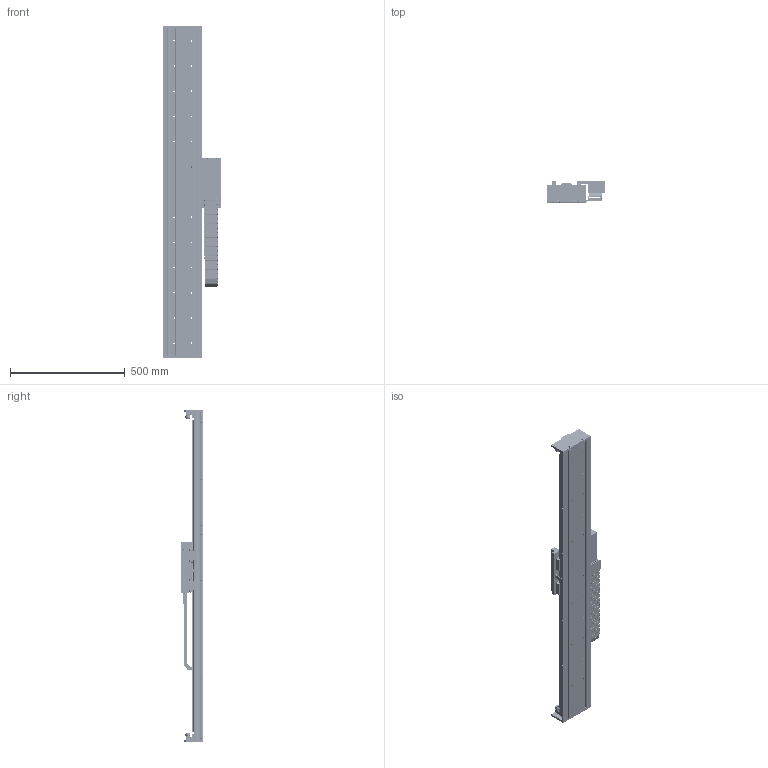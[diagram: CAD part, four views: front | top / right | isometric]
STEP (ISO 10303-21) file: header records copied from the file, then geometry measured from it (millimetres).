
FILE_DESCRIPTION (( 'STEP AP203' ), '1' );
FILE_NAME ('STF20120J-xC1B-Axx.STEP', '2007-06-22T21:30:41', ( 'Yaskawa' ), ( 'Yaskawa' ), 'SwSTEP 2.0', 'SolidWorks 2007', '' );
FILE_SCHEMA (( 'CONFIG_CONTROL_DESIGN' ));
Length unit declared in the file: millimetre
Products named in the file (58): STF2035-005-R2 Cable Router; STF20BM Base_STF20BM-009; 07.50.028.0_100; 07.50.028.0_108; 07.50.028.0_107; End Stop with Bumper; 07.50.028.0_106; SGLFM-20756AC; Mult-SR15+580LY_009; STF20120J-xC1B-Axx; SGLFM-20540AC; Complete Carriage; STF20-120 SSR15W Carriage-R2; STF2035-001B F20-120 Carriage; STF2035-002A-R2 F2035 Carriage Horn; SGLFW-20A120AP; STF2035-003 Renishaw Encoder Mount; RGH22B; STF2035-004 Flag; SSR15W Block; STCM-R1; STCM-001-R2 Cable Bracket; STCM-002-R2 Cable Assembly Front; STCM-003 Cable Assembly Bottom; STCM-005-R1 Cable Assembly Cover; STCM-006-R1 Upper E-chain Bracket; Serial Converter; STF2035-006 Endplate; 07.50.028.0_96; 07.50.028.0_97; 07.50.028.0_98; 07.50.028.0_99; 07.50.028.0_101; 07.50.028.0_102; 07.50.028.0_103; 07.50.028.0_104; 07.50.028.0_109; 07.50.028.0_110; 07.50.028.0_112; 07.50.028.0_113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
Assembly tree (79 placements, depth 4):
  STF20120J-xC1B-Axx
    STF20BM Base_STF20BM-009
      SGLFM-20540AC
      STF20BM Base_STF20BM-009
      End Stop with Bumper  x4
        STF2035-007 End Stop
        Bumper-Medium
      Mult-SR15+580LY_009  x2
      SGLFM-20756AC
    STF20120J
      07.50.028.0_105  x7
      07.50.028.0_111  x8
      07.50.028.0_116
      07.50.028.0_112
      07.50.028.0_97
      07.50.028.0_109
      07.50.028.0_107
      07.50.028.0_115
      07.50.028.0_122
      07.50.028.0_96
      07.50.028.0_106
      07.50.028.0_117
      07.50.028.0_102
      07.50.028.0_108
      07.50.028.0_113
      07.50.028.0_98
      07.50.028.0_99
      07.50.028.0_100
      07.50.028.0_104
      07.50.028.0_123
      07.50.028.0_110
      07.50.028.0_118
      07.50.028.0_119
      07.50.028.0_114
      07.50.028.0_101
      07.50.028.0_103
      07.50.028.0_120
      07.50.028.0_121
    STF2035-006 Endplate  x2
    Complete Carriage
      STF20-120 SSR15W Carriage-R2
        SSR15W Block  x4
        STF2035-002A-R2 F2035 Carriage Horn  x2
        STF2035-001B F20-120 Carriage
        RGH22B
        SGLFW-20A120AP
        STF2035-004 Flag
        STF2035-005-R2 Cable Router
        STF2035-003 Renishaw Encoder Mount
      STCM-R1
        STCM-004 Cable Assembly Side
        Serial Converter
        STCM-005-R1 Cable Assembly Cover
        STCM-002-R2 Cable Assembly Front
        STCM-001-R2 Cable Bracket
        STCM-003 Cable Assembly Bottom
        STCM-006-R1 Upper E-chain Bracket
    STCM-007 Lower E-Chain Bracket
Bounding box: 251.03 x 94.7 x 1449.05 mm (x, y, z)
Volume: 6918862.3 mm3; surface area: 1921536 mm2
Topology: 115 solids, 115 shells, 6226 faces, 16211 edges, 10367 vertices
Faces by surface type: plane 3166, cylinder 2562, cone 450, bspline 44, torus 4
Entity records: 139971 total; most frequent: DIRECTION 23633, CARTESIAN_POINT 23261, ORIENTED_EDGE 22038, EDGE_CURVE 11019, AXIS2_PLACEMENT_3D 8211, VERTEX_POINT 7226, VECTOR 7211, LINE 7211
